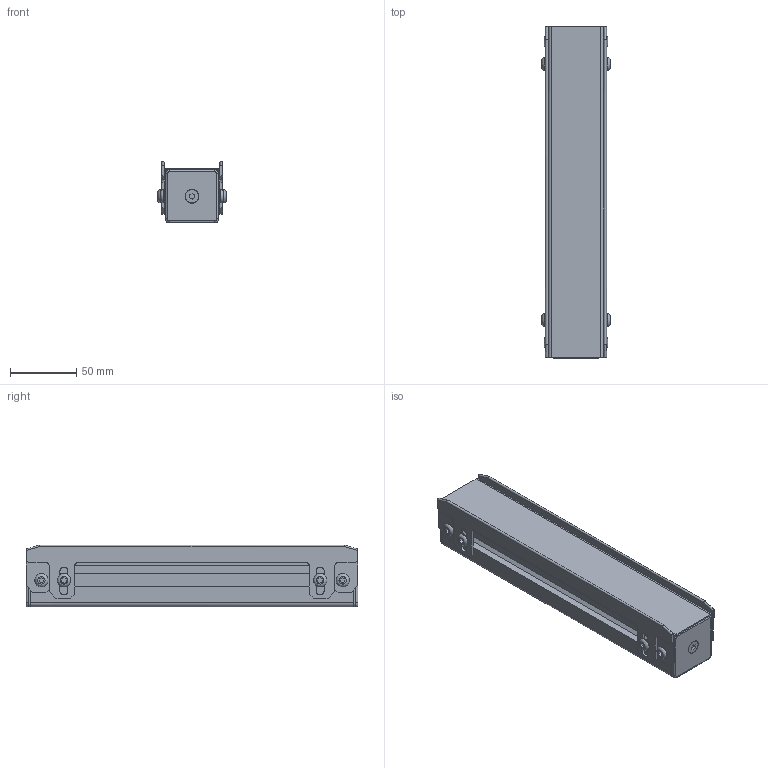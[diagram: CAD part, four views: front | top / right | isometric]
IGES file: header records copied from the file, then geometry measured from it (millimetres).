
Global section: file name: MGSS-FA-4040x250H; native system: unknown; preprocessor: unknown; author: unknown; organization: unknown; date: 20221215.125554; units: millimetre
Bounding box: 51.6 x 250 x 46.5 mm (x, y, z)
Volume: 199660.3 mm3; surface area: 174155.1 mm2
Topology: 16 solids, 16 shells, 352 faces, 936 edges, 618 vertices
Faces by surface type: bspline 352
